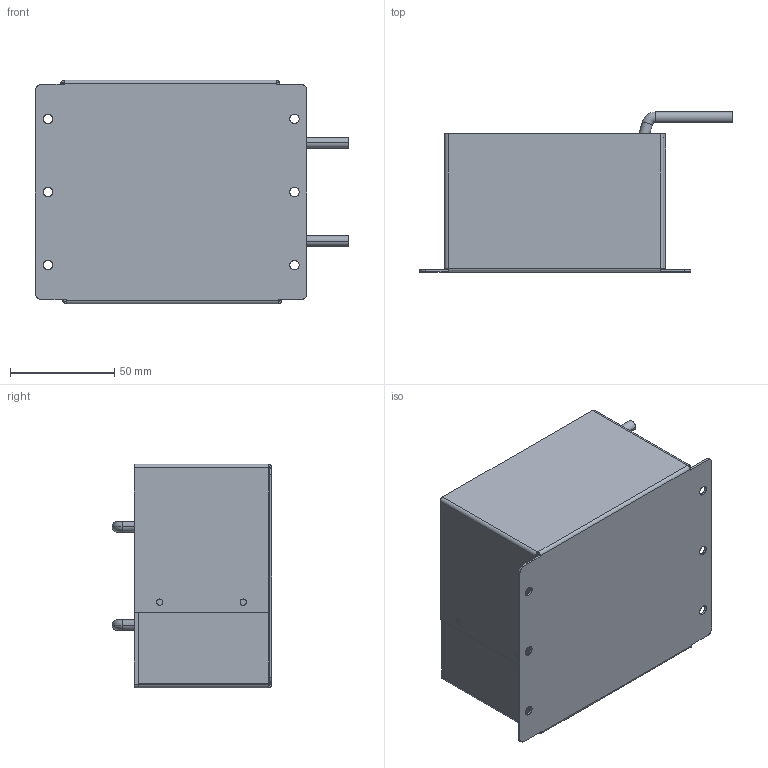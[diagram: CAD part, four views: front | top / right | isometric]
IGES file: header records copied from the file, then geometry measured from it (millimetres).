
Start section: SolidWorks IGES file using analytic representation for surfaces
Global section: file name: 18H\\10.106.230.1\r&d file\05_COMP\02_Mechanical\10_Others\PV_RT 81\网络用3D模型\灌封模型\S-3KW-P-DCL\S-3KW-P-DCL总装.IGS; native system: SolidWorks 2009; preprocessor: SolidWorks 2009; author: 钱雅婧,, ; organization: 11; date: 120507.163818; units: millimetre
Bounding box: 149.9 x 76.5 x 107 mm (x, y, z)
Surface area: 134734.9 mm2 (no closed solid volume)
Topology: 0 solids, 0 shells, 114 faces, 828 edges, 828 vertices
Faces by surface type: bspline 66, revolution 48
